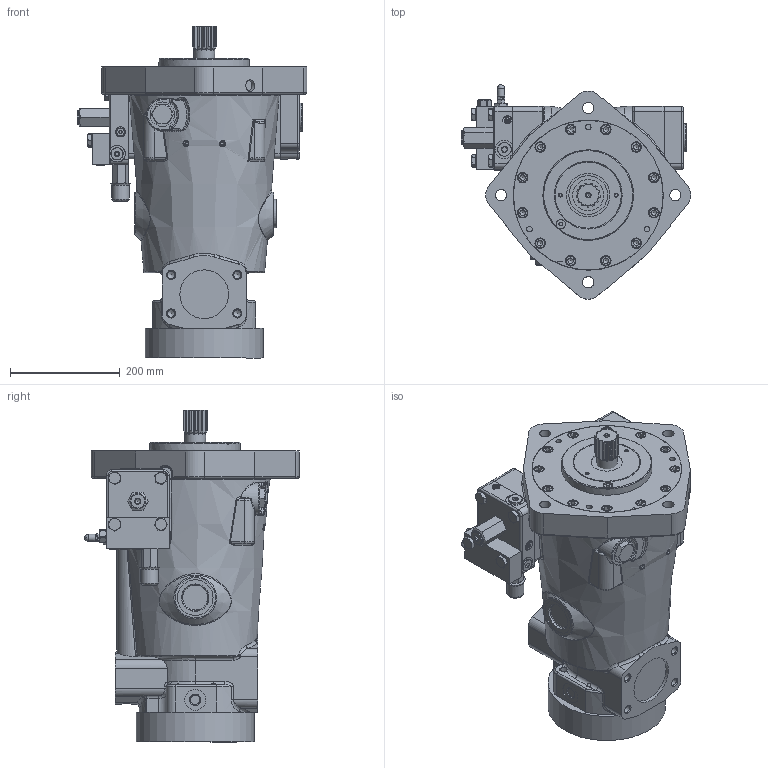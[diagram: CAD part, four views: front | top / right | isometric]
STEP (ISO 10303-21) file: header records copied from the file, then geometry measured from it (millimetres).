
FILE_DESCRIPTION(/* description */ (''),/* implementation_level */ '2;1');
FILE_NAME(/* name */ 'G:\Cadusers\Miller\3D\P16H3L1DL10B0 solid.stp',/* time_stamp */ '2016-01-19T08:28:56-05:00',/* author */ ('cma4859'),/* organization */ (''),/* preprocessor_version */ 'ST-DEVELOPER v15.2',/* originating_system */ 'Autodesk Inventor 2014',/* authorisation */ '');
FILE_SCHEMA (('AUTOMOTIVE_DESIGN { 1 0 10303 214 3 1 1 }'));
Products named in the file (1): P16H3L1DL10B0 solid
Bounding box: 418.1 x 390.97 x 604.9 mm (x, y, z)
Volume: 29354684 mm3; surface area: 1320252.9 mm2
Topology: 52 solids, 54 shells, 1841 faces, 4178 edges, 2550 vertices
Faces by surface type: plane 739, cylinder 445, cone 355, bspline 183, torus 108, sphere 11
Full cylindrical faces by diameter (mm): 1.5 x2, 2.184 x8, 2.507 x1, 4.78 x2, 4.826 x2, 5.359 x2, 6 x5, 6.35 x4, 6.782 x3, 6.985 x1, 7.112 x1, 7.295 x1, 7.798 x1, 7.938 x7, 9.25 x2, 9.6 x4, 10 x2, 10.109 x3, 10.716 x8, 11.1 x4, 11.112 x6, 11.113 x1, 11.852 x8, 12 x16, 12.243 x1, 12.303 x12, 12.497 x2, 13 x1, 13.368 x1, 13.386 x8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
Entity records: 55989 total; most frequent: CARTESIAN_POINT 18466, DIRECTION 7798, ORIENTED_EDGE 6999, EDGE_CURVE 3501, AXIS2_PLACEMENT_3D 3304, EDGE_LOOP 2605, VERTEX_POINT 2422, ADVANCED_FACE 1839
